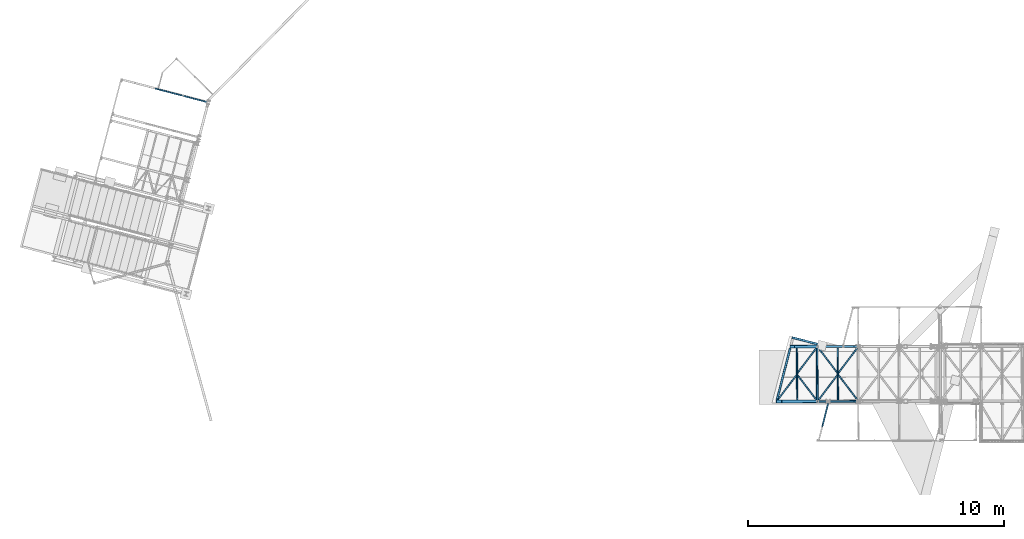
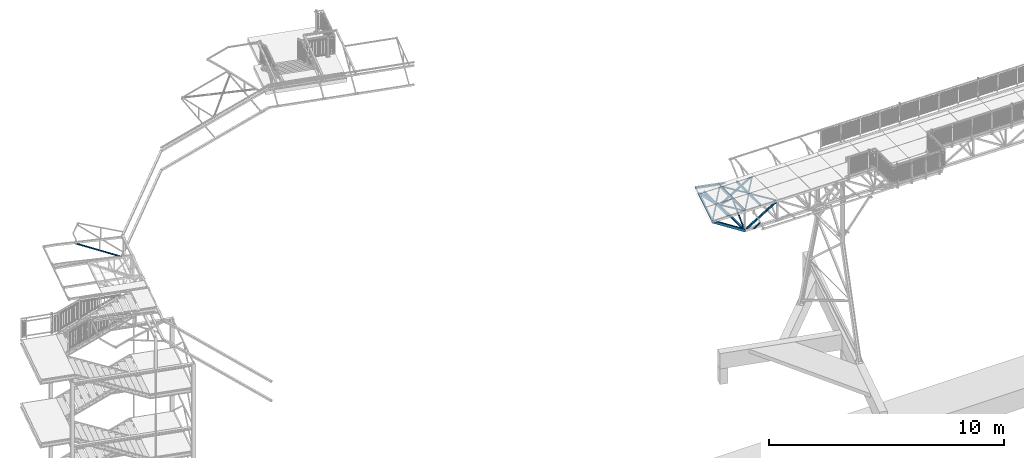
# One storey, part 49 of 169: 21 discrete accessories, 3 elements without a shape of their own.
"""IFC2X3 building model written with IfcOpenShell, lengths in millimetres."""

import ifcopenshell
import ifcopenshell.guid

model = None  # the IFC model being written
_history = None  # IfcOwnerHistory: only IFC2X3 demands one
_inside = {}  # id of a spatial element -> (the spatial element, [elements in it])
_under = {}  # id of a project, library or spatial element -> (it, [spatial elements below it])
_declared = {}  # id of a project -> (the project, [libraries it declares])
_typed = {}  # id of a type object -> (the type object, [elements of that type])
_made_of = {}  # id of a material, layer set ... -> (it, [elements and type objects made of it])


def new_model(schema):
    """Start an empty IFC model of exactly this schema.

    Asked for "IFC4X3", IfcOpenShell would pick the latest addendum, in which some entities
    have other attributes; the version numbers below select the first issue.
    IFC2X3 requires an IfcOwnerHistory on every rooted entity: one is made here for all.
    """
    global model, _history
    if schema == "IFC4X3":
        model = ifcopenshell.file(schema_version=(4, 3, 0, 0))
    else:
        model = ifcopenshell.file(schema=schema)
    _inside.clear()
    _under.clear()
    _declared.clear()
    _typed.clear()
    _made_of.clear()
    _history = None
    if model.schema == "IFC2X3":
        org = make("IfcOrganization", Name="unknown")
        user = make(
            "IfcPersonAndOrganization",
            ThePerson=make("IfcPerson", FamilyName="unknown"),
            TheOrganization=org,
        )
        app = make(
            "IfcApplication",
            ApplicationDeveloper=org,
            Version="unknown",
            ApplicationFullName="unknown",
            ApplicationIdentifier="unknown",
        )
        _history = make(
            "IfcOwnerHistory",
            OwningUser=user,
            OwningApplication=app,
            ChangeAction="ADDED",
            CreationDate=0,
        )
    return model


def make(cls, **values):
    """One entity of the class cls with the attributes given. An attribute that is None is left unset."""
    return model.create_entity(
        cls, **{name: value for name, value in values.items() if value is not None}
    )


def rooted(cls, **values):
    """An entity with a GlobalId (a new one), such as an element, a storey or a relation."""
    return make(cls, GlobalId=ifcopenshell.guid.new(), OwnerHistory=_history, **values)


def si_unit(unit_type, name, prefix=None):
    """IfcSIUnit, for example si_unit("LENGTHUNIT", "METRE", prefix="MILLI")."""
    return make("IfcSIUnit", UnitType=unit_type, Prefix=prefix, Name=name)


def assignment(units):
    """IfcUnitAssignment: the units of a project."""
    return None if units is None else make("IfcUnitAssignment", Units=units)


def point(xyz):
    """IfcCartesianPoint."""
    return None if xyz is None else make("IfcCartesianPoint", Coordinates=xyz)


def direction(xyz):
    """IfcDirection."""
    return None if xyz is None else make("IfcDirection", DirectionRatios=xyz)


def frame(location, z_axis=None, x_axis=None):
    """IfcAxis2Placement3D, a coordinate frame: its origin and axes. An axis left out is left unset."""
    return make(
        "IfcAxis2Placement3D",
        Location=point(location),
        Axis=direction(z_axis),
        RefDirection=direction(x_axis),
    )


def frame_2d(location, x_axis=None):
    """IfcAxis2Placement2D, a coordinate frame in the plane: its origin and x axis."""
    return make(
        "IfcAxis2Placement2D", Location=point(location), RefDirection=direction(x_axis)
    )


def origin_with_axes():
    """The frame at (0, 0, 0) with the z axis (0, 0, 1) and the x axis (1, 0, 0) written out."""
    return frame((0.0, 0.0, 0.0), z_axis=(0.0, 0.0, 1.0), x_axis=(1.0, 0.0, 0.0))


def origin_2d_with_axis():
    """The frame at (0, 0) in the plane with the x axis (1, 0) written out."""
    return frame_2d((0.0, 0.0), x_axis=(1.0, 0.0))


def place(relative_to, where):
    """IfcLocalPlacement: puts the frame where relative to a parent placement (None: the world)."""
    return make(
        "IfcLocalPlacement", PlacementRelTo=relative_to, RelativePlacement=where
    )


def context(
    kind, dimensions, precision=None, world=None, true_north=None, identifier=None
):
    """IfcGeometricRepresentationContext, for example the 3D "Model" context."""
    return make(
        "IfcGeometricRepresentationContext",
        ContextIdentifier=identifier,
        ContextType=kind,
        CoordinateSpaceDimension=dimensions,
        Precision=precision,
        WorldCoordinateSystem=world,
        TrueNorth=true_north,
    )


def subcontext(parent, identifier, kind, view, scale=None):
    """IfcGeometricRepresentationSubContext, for example "Body" below "Model"."""
    return make(
        "IfcGeometricRepresentationSubContext",
        ContextIdentifier=identifier,
        ContextType=kind,
        ParentContext=parent,
        TargetScale=scale,
        TargetView=view,
    )


def project(units=None, contexts=None):
    """IfcProject with its units and contexts."""
    return rooted(
        "IfcProject",
        Name="project",
        RepresentationContexts=contexts,
        UnitsInContext=assignment(units),
    )


def spatial(cls, under=None, at=None, **own):
    """A site, building, storey or space (cls), placed at a placement, below another one or the project."""
    s = rooted(cls, ObjectPlacement=at, **own)
    if under is not None:
        _under.setdefault(under.id(), (under, []))[1].append(s)
    return s


def polyline(points):
    """IfcPolyline through the points."""
    return make("IfcPolyline", Points=[point(p) for p in points])


def profile(cls, at=None, kind="AREA", **sizes):
    """A parametric profile (cls). Its sizes go by their IFC names, for example OverallWidth=200.0."""
    return make(cls, ProfileType=kind, Position=at, **sizes)


def rectangle(**sizes):
    """IfcRectangleProfileDef."""
    return profile("IfcRectangleProfileDef", **sizes)


def hollow_rectangle(**sizes):
    """IfcRectangleHollowProfileDef."""
    return profile("IfcRectangleHollowProfileDef", **sizes)


def outline(outer, holes=None, kind="AREA"):
    """IfcArbitraryClosedProfileDef: a profile drawn as a closed curve; with holes, ...WithVoids."""
    if holes is None:
        return make("IfcArbitraryClosedProfileDef", ProfileType=kind, OuterCurve=outer)
    return make(
        "IfcArbitraryProfileDefWithVoids",
        ProfileType=kind,
        OuterCurve=outer,
        InnerCurves=holes,
    )


def extrude(swept, where, along, depth):
    """IfcExtrudedAreaSolid: the profile swept, set in the frame where, extruded along a direction by depth."""
    return make(
        "IfcExtrudedAreaSolid",
        SweptArea=swept,
        Position=where,
        ExtrudedDirection=direction(along),
        Depth=depth,
    )


def boolean(op, a, b):
    """IfcBooleanResult of two solids."""
    return make("IfcBooleanResult", Operator=op, FirstOperand=a, SecondOperand=b)


def clip(a, b, op="DIFFERENCE"):
    """IfcBooleanClippingResult: the solid a cut by the half space b."""
    return make(
        "IfcBooleanClippingResult", Operator=op, FirstOperand=a, SecondOperand=b
    )


def halfspace(plane, agree):
    """IfcHalfSpaceSolid: all space on one side of the plane z = 0 of the frame plane."""
    return make(
        "IfcHalfSpaceSolid",
        BaseSurface=make("IfcPlane", Position=plane),
        AgreementFlag=agree,
    )


def shape(context_of_items, identifier, shape_type, items):
    """IfcShapeRepresentation: the items that make up one representation, for example the "Body"."""
    return make(
        "IfcShapeRepresentation",
        ContextOfItems=context_of_items,
        RepresentationIdentifier=identifier,
        RepresentationType=shape_type,
        Items=items,
    )


def material(Name=None, Category=None):
    """IfcMaterial."""
    return make("IfcMaterial", Name=Name, Category=Category)


def made_of(thing, what):
    """Note that an element or type object is made of a material, layer set ...; save() writes the relation."""
    if what is not None:
        _made_of.setdefault(what.id(), (what, []))[1].append(thing)
    return thing


def type_object(cls, material=None, **own):
    """A type object (cls), such as IfcWallType, which elements share."""
    return made_of(rooted(cls, **own), material)


def element(
    cls,
    number,
    at=None,
    inside=None,
    cuts=None,
    type_object=None,
    material=None,
    context=None,
    identifier="Body",
    shape_type=None,
    held_by="IfcProductDefinitionShape",
    body=None,
    shapes=None,
    **own,
):
    """One element of the class cls, such as IfcWall. Its Tag is "e" and its number.

    at: its placement. inside: the storey or other place that contains it. cuts: it is an
    opening in that element (IfcRelVoidsElement). A single representation is given by context,
    identifier, shape_type and body (its items); several are given by shapes. held_by: the class
    of the entity that holds the representations. save() writes the other relations.
    """
    e = rooted(cls, Tag="e%d" % number, ObjectPlacement=at, **own)
    if body is not None:
        shapes = [shape(context, identifier, shape_type, body)]
    if shapes is not None:
        e.Representation = make(held_by, Representations=shapes)
    if inside is not None:
        _inside.setdefault(inside.id(), (inside, []))[1].append(e)
    if cuts is not None:
        rooted(
            "IfcRelVoidsElement", RelatingBuildingElement=cuts, RelatedOpeningElement=e
        )
    if type_object is not None:
        _typed.setdefault(type_object.id(), (type_object, []))[1].append(e)
    return made_of(e, material)


def aggregate(whole, parts):
    """IfcRelAggregates: a whole, such as a stair, and the parts it consists of."""
    return rooted("IfcRelAggregates", RelatingObject=whole, RelatedObjects=parts)


def save(model, path):
    """Write the relations noted so far, then the file.

    IfcRelAggregates (storeys below a building ...), IfcRelContainedInSpatialStructure (elements
    in a storey), IfcRelDefinesByType, IfcRelAssociatesMaterial and IfcRelDeclares: one each for
    every whole, place, type object, material and project.
    """
    for whole, parts in _under.values():
        aggregate(whole, parts)
    for where, things in _inside.values():
        rooted(
            "IfcRelContainedInSpatialStructure",
            RelatedElements=things,
            RelatingStructure=where,
        )
    for kind, things in _typed.values():
        rooted("IfcRelDefinesByType", RelatedObjects=things, RelatingType=kind)
    for what, things in _made_of.values():
        rooted("IfcRelAssociatesMaterial", RelatedObjects=things, RelatingMaterial=what)
    for by, libraries in _declared.values():
        rooted("IfcRelDeclares", RelatingContext=by, RelatedDefinitions=libraries)
    model.write(path)


model = new_model("IFC2X3")

# Units and contexts
model_context = context("Model", 3, precision=1e-05, world=origin_with_axes())
body_context = subcontext(model_context, "Body", "Model", "MODEL_VIEW")
ifc_project = project(units=[si_unit("LENGTHUNIT", "METRE", prefix="MILLI"), si_unit("AREAUNIT", "SQUARE_METRE"), si_unit("VOLUMEUNIT", "CUBIC_METRE"), si_unit("MASSUNIT", "GRAM", prefix="KILO"), si_unit("TIMEUNIT", "SECOND"), si_unit("PLANEANGLEUNIT", "RADIAN"), si_unit("SOLIDANGLEUNIT", "STERADIAN"), si_unit("THERMODYNAMICTEMPERATUREUNIT", "DEGREE_CELSIUS"), si_unit("LUMINOUSINTENSITYUNIT", "LUMEN")], contexts=[model_context])

# Site, building, storey
site_placement = place(None, origin_with_axes())
site = spatial("IfcSite", under=ifc_project, at=site_placement, Name="Undefined", CompositionType="ELEMENT")
building_placement = place(site_placement, origin_with_axes())
building = spatial("IfcBuilding", under=site, at=building_placement, Name="Undefined", CompositionType="ELEMENT")
storey_placement = place(building_placement, origin_with_axes())
storey = spatial("IfcBuildingStorey", under=building, at=storey_placement, Name="Undefined", CompositionType="ELEMENT", Elevation=0.0)

# Assembly, discrete accessory
assembly_1_placement = place(storey_placement, origin_with_axes())
assembly_1 = element("IfcElementAssembly", 1, at=assembly_1_placement, inside=storey, Name="Steel Assembly", AssemblyPlace="NOTDEFINED", PredefinedType="RIGID_FRAME")
ifc_material_1 = material(Name="STEEL/S235")
discrete_accessory_type = type_object("IfcDiscreteAccessoryType", Name="BEAM")
discrete_accessory_1_placement = place(assembly_1_placement, frame((-24468.9295563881, 12312.4243957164, 13847.7787930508), z_axis=(0.252583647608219, 0.967575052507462, -0.000136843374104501), x_axis=(0.856735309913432, -0.223714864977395, -0.464710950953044)))
discrete_accessory_1 = element("IfcDiscreteAccessory", 2, at=discrete_accessory_1_placement, type_object=discrete_accessory_type, material=ifc_material_1, Name="BEAM", ObjectType="SHS60*4", context=body_context, shape_type="Clipping", body=[
    clip(clip(extrude(hollow_rectangle(XDim=60.0, YDim=60.0, WallThickness=4.0, InnerFilletRadius=4.0, OuterFilletRadius=8.0, at=origin_2d_with_axis()), frame((2317.76004528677, 3.66640051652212e-12, -3.71284000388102e-14), z_axis=(-1.0, -3.46944695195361e-18, -1.38777878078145e-17), x_axis=(1.73472347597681e-18, -1.0, 0.0)), (0.0, 0.0, 1.0), 2497.58), halfspace(frame((2194.40274232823, -29.9999199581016, 0.000485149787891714), z_axis=(-0.885421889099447, 0.464788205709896, 4.62227571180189e-05), x_axis=(-4.75817847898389e-05, 8.80573826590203e-06, -0.999999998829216)), True)), halfspace(frame((-170.25871689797, 45.3757276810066, 1000.0001146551), z_axis=(0.420020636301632, 0.907514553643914, 2.29337284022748e-06), x_axis=(-0.907514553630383, 0.420020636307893, -4.95571453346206e-06)), True)),
])
aggregate(assembly_1, [discrete_accessory_1])

assembly_2_placement = place(storey_placement, origin_with_axes())
assembly_2 = element("IfcElementAssembly", 3, at=assembly_2_placement, inside=storey, Name="Steel Assembly", AssemblyPlace="NOTDEFINED", PredefinedType="RIGID_FRAME")
ifc_material_2 = material(Name="STEEL/S355")
discrete_accessory_2_placement = place(assembly_2_placement, frame((1741.67537449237, 67.4410510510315, 12897.7914717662), z_axis=(-0.967485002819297, 0.2526293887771, 0.0122947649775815), x_axis=(-0.169631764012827, -0.684153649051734, 0.709336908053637)))
discrete_accessory_2 = element("IfcDiscreteAccessory", 4, at=discrete_accessory_2_placement, type_object=discrete_accessory_type, material=ifc_material_2, Name="BEAM", ObjectType="SHS60*3", context=body_context, shape_type="CSG", body=[
    boolean("DIFFERENCE", boolean("DIFFERENCE", extrude(hollow_rectangle(XDim=60.0, YDim=60.0, WallThickness=3.0, InnerFilletRadius=3.0, OuterFilletRadius=6.0, at=origin_2d_with_axis()), frame((1371.74413277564, 7.61470960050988e-14, -2.24994078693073e-13), z_axis=(-1.0, -3.46944695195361e-18, -1.38777878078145e-17), x_axis=(1.73472347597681e-18, -1.0, 0.0)), (0.0, 0.0, 1.0), 1371.74), extrude(outline(polyline([(0.0, 0.0), (209.999999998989, 6.42057784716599e-08), (209.999999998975, 133.000000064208), (-10.0000000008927, 133.000000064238), (0.0, 0.0)])), frame((26.0449207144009, -59.6348435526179, 103.806688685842), z_axis=(0.707106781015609, 0.707106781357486, 0.0), x_axis=(-0.179911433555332, 0.17991139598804, -0.967090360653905)), (0.0, 0.0, 1.0), 972.0)), halfspace(frame((1376.20959050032, -23.4865772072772, -1000.16171617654), z_axis=(-0.621991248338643, -0.782885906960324, -0.0147154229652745), x_axis=(-0.782666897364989, 0.622165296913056, -0.0185167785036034)), True)),
])
aggregate(assembly_2, [discrete_accessory_2])

# Assembly, discrete accessories
assembly_3_placement = place(storey_placement, origin_with_axes())
assembly_3 = element("IfcElementAssembly", 5, at=assembly_3_placement, inside=storey, Name="Steel Assembly", AssemblyPlace="NOTDEFINED", PredefinedType="RIGID_FRAME")
discrete_accessory_3_placement = place(assembly_3_placement, frame((516.053616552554, 1160.97844649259, 13947.6863233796), z_axis=(-0.012713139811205, -2.37511238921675e-05, -0.999919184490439), x_axis=(0.606019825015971, -0.795412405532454, -0.00768614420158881)))
discrete_accessory_3 = element("IfcDiscreteAccessory", 6, at=discrete_accessory_3_placement, type_object=discrete_accessory_type, material=ifc_material_2, Name="BEAM", ObjectType="K60/4", context=body_context, shape_type="CSG", body=[
    boolean("DIFFERENCE", boolean("DIFFERENCE", boolean("DIFFERENCE", extrude(hollow_rectangle(XDim=60.0, YDim=60.0, WallThickness=4.0, InnerFilletRadius=4.0, OuterFilletRadius=8.0, at=origin_2d_with_axis()), frame((1324.47644334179, 4.88419580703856e-14, 0.0), z_axis=(-1.0, -3.46944695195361e-18, -1.38777878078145e-17), x_axis=(1.73472347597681e-18, -1.0, 0.0)), (0.0, 0.0, 1.0), 1315.24), extrude(rectangle(XDim=62.0, YDim=122.0, at=origin_2d_with_axis()), frame((-317.194798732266, -1246.04819274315, -4.50218587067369e-07), z_axis=(0.796541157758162, 0.604584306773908, 3.61473572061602e-11), x_axis=(0.604584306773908, -0.796541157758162, 1.21739011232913e-10)), (0.0, 0.0, 1.0), 4122.0)), extrude(rectangle(XDim=122.0, YDim=122.0, at=origin_2d_with_axis()), frame((2552.51032927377, -1617.93718011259, -0.000112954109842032), z_axis=(-0.604584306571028, 0.79654115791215, 7.30440430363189e-11), x_axis=(0.0, 0.0, 1.0)), (0.0, 0.0, 1.0), 4062.41)), halfspace(frame((18.1375303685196, -23.8962347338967, -999.999999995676), z_axis=(0.604584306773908, -0.796541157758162, 1.21739011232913e-10), x_axis=(-0.796541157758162, -0.604584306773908, -3.61451384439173e-11)), True)),
])
discrete_accessory_4_placement = place(assembly_3_placement, frame((515.997671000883, 1190.97839440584, 13947.6863220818), z_axis=(-0.012713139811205, -2.37511238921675e-05, -0.999919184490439), x_axis=(0.603048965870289, 0.797667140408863, -0.00768621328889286)))
discrete_accessory_4 = element("IfcDiscreteAccessory", 7, at=discrete_accessory_4_placement, type_object=discrete_accessory_type, material=ifc_material_2, Name="BEAM", ObjectType="K60/4", context=body_context, shape_type="CSG", body=[
    boolean("DIFFERENCE", boolean("DIFFERENCE", boolean("DIFFERENCE", extrude(hollow_rectangle(XDim=60.0, YDim=60.0, WallThickness=4.0, InnerFilletRadius=4.0, OuterFilletRadius=8.0, at=origin_2d_with_axis()), frame((1324.47644334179, 4.88419580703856e-14, 0.0), z_axis=(-1.0, -3.46944695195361e-18, -1.38777878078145e-17), x_axis=(1.73472347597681e-18, -1.0, 0.0)), (0.0, 0.0, 1.0), 1315.35), extrude(rectangle(XDim=62.0, YDim=122.0, at=origin_2d_with_axis()), frame((2966.14777387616, -1246.04825596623, -1.63275600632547e-06), z_axis=(-0.79654115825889, 0.604584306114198, 2.79726373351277e-10), x_axis=(0.604584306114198, 0.79654115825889, -3.06618013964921e-10)), (0.0, 0.0, 1.0), 4122.0)), extrude(rectangle(XDim=122.0, YDim=122.0, at=origin_2d_with_axis()), frame((2552.51014726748, 1617.9371159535, -0.00011415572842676), z_axis=(-0.604584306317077, -0.796541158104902, 5.01400825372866e-10), x_axis=(0.0, 0.0, 1.0)), (0.0, 0.0, 1.0), 4062.41)), halfspace(frame((18.1375297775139, 23.8962347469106, -1000.00000000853), z_axis=(0.604584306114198, 0.79654115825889, -3.06618013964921e-10), x_axis=(0.79654115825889, -0.604584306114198, -2.79724190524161e-10)), True)),
])
discrete_accessory_5_placement = place(assembly_3_placement, frame((-282.670533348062, 104.487109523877, 13957.8665308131), z_axis=(-0.012713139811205, -2.37511238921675e-05, -0.999919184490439), x_axis=(0.603048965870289, 0.797667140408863, -0.00768621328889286)))
discrete_accessory_5 = element("IfcDiscreteAccessory", 8, at=discrete_accessory_5_placement, type_object=discrete_accessory_type, material=ifc_material_2, Name="BEAM", ObjectType="K60/4", context=body_context, shape_type="CSG", body=[
    boolean("DIFFERENCE", boolean("DIFFERENCE", boolean("DIFFERENCE", extrude(hollow_rectangle(XDim=60.0, YDim=60.0, WallThickness=4.0, InnerFilletRadius=4.0, OuterFilletRadius=8.0, at=origin_2d_with_axis()), frame((1315.35435976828, -9.7635059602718e-14, -1.8178485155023e-12), z_axis=(-1.0, -3.46944695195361e-18, -1.38777878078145e-17), x_axis=(1.73472347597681e-18, -1.0, 0.0)), (0.0, 0.0, 1.0), 1315.35), extrude(rectangle(XDim=82.0, YDim=82.0, at=origin_2d_with_axis()), frame((1900.73366205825, -797.412851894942, -20.0001129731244), z_axis=(-0.922131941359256, 0.386875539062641, 3.72807172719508e-10), x_axis=(0.0, 0.0, 1.0)), (0.0, 0.0, 1.0), 4122.32)), extrude(rectangle(XDim=122.0, YDim=122.0, at=origin_2d_with_axis()), frame((1223.61572124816, 1612.11658727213, -0.000113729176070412), z_axis=(-0.604584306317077, -0.796541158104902, 5.01400825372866e-10), x_axis=(0.0, 0.0, 1.0)), (0.0, 0.0, 1.0), 4047.79)), halfspace(frame((1306.33891469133, -23.8962347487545, -999.999999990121), z_axis=(-0.604584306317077, -0.796541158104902, 5.01400825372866e-10), x_axis=(-0.79654115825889, 0.604584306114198, 2.79726373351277e-10)), True)),
])
discrete_accessory_6_placement = place(assembly_3_placement, frame((518.021032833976, 105.980281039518, 13947.6863689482), z_axis=(0.012713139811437, 2.3750999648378e-05, 0.999919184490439), x_axis=(-0.0018648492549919, 0.999998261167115, -4.2996762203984e-08)))
discrete_accessory_6 = element("IfcDiscreteAccessory", 9, at=discrete_accessory_6_placement, type_object=discrete_accessory_type, material=ifc_material_2, Name="BEAM", ObjectType="RHS120*60*3", context=body_context, shape_type="Clipping", body=[
    clip(clip(extrude(hollow_rectangle(XDim=60.0, YDim=120.0, WallThickness=3.0, InnerFilletRadius=3.0, OuterFilletRadius=6.0, at=origin_2d_with_axis()), frame((2079.99999999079, 5.70364343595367e-14, -1.83064995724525e-18), z_axis=(-1.0, -3.46944695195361e-18, -1.38777878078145e-17), x_axis=(1.73472347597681e-18, -1.0, 0.0)), (0.0, 0.0, 1.0), 2020.0), halfspace(frame((2079.99999986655, -1.53990526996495e-08, 999.999999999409), z_axis=(-1.0, -3.46944695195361e-18, -1.38777878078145e-17), x_axis=(1.73472347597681e-18, -1.0, 0.0)), True)), halfspace(frame((59.9998947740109, 1.52502366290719e-08, 999.99999999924), z_axis=(1.0, 0.0, 0.0), x_axis=(0.0, 1.0, 0.0)), True)),
])
discrete_accessory_7_placement = place(assembly_3_placement, frame((2117.4367494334, 1163.96478953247, 13927.3259996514), z_axis=(-0.012713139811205, -2.37511238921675e-05, -0.999919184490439), x_axis=(0.606019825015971, -0.795412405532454, -0.00768614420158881)))
discrete_accessory_7 = element("IfcDiscreteAccessory", 10, at=discrete_accessory_7_placement, type_object=discrete_accessory_type, material=ifc_material_2, Name="BEAM", ObjectType="K60/4", context=body_context, shape_type="CSG", body=[
    boolean("DIFFERENCE", boolean("DIFFERENCE", boolean("DIFFERENCE", extrude(hollow_rectangle(XDim=60.0, YDim=60.0, WallThickness=4.0, InnerFilletRadius=4.0, OuterFilletRadius=8.0, at=origin_2d_with_axis()), frame((1324.47644334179, 4.88419580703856e-14, 0.0), z_axis=(-1.0, -3.46944695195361e-18, -1.38777878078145e-17), x_axis=(1.73472347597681e-18, -1.0, 0.0)), (0.0, 0.0, 1.0), 1315.24), extrude(rectangle(XDim=62.0, YDim=122.0, at=origin_2d_with_axis()), frame((-317.194798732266, -1246.04819274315, -4.50218587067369e-07), z_axis=(0.796541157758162, 0.604584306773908, 3.61473572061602e-11), x_axis=(0.604584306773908, -0.796541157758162, 1.21739011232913e-10)), (0.0, 0.0, 1.0), 4122.0)), extrude(rectangle(XDim=122.0, YDim=122.0, at=origin_2d_with_axis()), frame((2552.51032927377, -1617.93718011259, -0.000112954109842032), z_axis=(-0.604584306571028, 0.79654115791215, 7.30440430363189e-11), x_axis=(0.0, 0.0, 1.0)), (0.0, 0.0, 1.0), 4062.41)), halfspace(frame((18.1375303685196, -23.8962347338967, -999.999999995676), z_axis=(0.604584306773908, -0.796541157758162, 1.21739011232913e-10), x_axis=(-0.796541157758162, -0.604584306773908, -3.61451384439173e-11)), True)),
])
discrete_accessory_8_placement = place(assembly_3_placement, frame((2117.38080388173, 1193.96473744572, 13927.3259983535), z_axis=(-0.012713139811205, -2.37511238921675e-05, -0.999919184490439), x_axis=(0.603048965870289, 0.797667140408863, -0.00768621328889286)))
discrete_accessory_8 = element("IfcDiscreteAccessory", 11, at=discrete_accessory_8_placement, type_object=discrete_accessory_type, material=ifc_material_2, Name="BEAM", ObjectType="K60/4", context=body_context, shape_type="CSG", body=[
    boolean("DIFFERENCE", boolean("DIFFERENCE", boolean("DIFFERENCE", extrude(hollow_rectangle(XDim=60.0, YDim=60.0, WallThickness=4.0, InnerFilletRadius=4.0, OuterFilletRadius=8.0, at=origin_2d_with_axis()), frame((1324.47644334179, 4.88419580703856e-14, 0.0), z_axis=(-1.0, -3.46944695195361e-18, -1.38777878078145e-17), x_axis=(1.73472347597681e-18, -1.0, 0.0)), (0.0, 0.0, 1.0), 1315.35), extrude(rectangle(XDim=62.0, YDim=122.0, at=origin_2d_with_axis()), frame((2966.14777387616, -1246.04825596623, -1.63275600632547e-06), z_axis=(-0.79654115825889, 0.604584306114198, 2.79726373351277e-10), x_axis=(0.604584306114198, 0.79654115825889, -3.06618013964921e-10)), (0.0, 0.0, 1.0), 4122.0)), extrude(rectangle(XDim=122.0, YDim=122.0, at=origin_2d_with_axis()), frame((2552.51014726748, 1617.9371159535, -0.00011415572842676), z_axis=(-0.604584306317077, -0.796541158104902, 5.01400825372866e-10), x_axis=(0.0, 0.0, 1.0)), (0.0, 0.0, 1.0), 4062.41)), halfspace(frame((18.1375297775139, 23.8962347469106, -1000.00000000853), z_axis=(0.604584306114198, 0.79654115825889, -3.06618013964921e-10), x_axis=(0.79654115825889, -0.604584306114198, -2.79724190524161e-10)), True)),
])
discrete_accessory_9_placement = place(assembly_3_placement, frame((1318.71259953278, 107.473452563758, 13937.5062070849), z_axis=(-0.012713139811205, -2.37511238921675e-05, -0.999919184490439), x_axis=(0.603048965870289, 0.797667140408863, -0.00768621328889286)))
discrete_accessory_9 = element("IfcDiscreteAccessory", 12, at=discrete_accessory_9_placement, type_object=discrete_accessory_type, material=ifc_material_2, Name="BEAM", ObjectType="K60/4", context=body_context, shape_type="CSG", body=[
    boolean("DIFFERENCE", boolean("DIFFERENCE", boolean("DIFFERENCE", extrude(hollow_rectangle(XDim=60.0, YDim=60.0, WallThickness=4.0, InnerFilletRadius=4.0, OuterFilletRadius=8.0, at=origin_2d_with_axis()), frame((1315.35435976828, -9.7635059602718e-14, -1.8178485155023e-12), z_axis=(-1.0, -3.46944695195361e-18, -1.38777878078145e-17), x_axis=(1.73472347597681e-18, -1.0, 0.0)), (0.0, 0.0, 1.0), 1315.35), extrude(rectangle(XDim=62.0, YDim=122.0, at=origin_2d_with_axis()), frame((1641.67124226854, -1246.0481903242, -5.87301509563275e-07), z_axis=(-0.79654115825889, 0.604584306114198, 2.79726373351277e-10), x_axis=(0.604584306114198, 0.79654115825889, -3.06618013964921e-10)), (0.0, 0.0, 1.0), 4122.0)), extrude(rectangle(XDim=122.0, YDim=122.0, at=origin_2d_with_axis()), frame((1227.7876623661, 1617.61313177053, -0.000112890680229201), z_axis=(-0.604584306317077, -0.796541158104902, 5.01400825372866e-10), x_axis=(0.0, 0.0, 1.0)), (0.0, 0.0, 1.0), 4061.59)), halfspace(frame((1306.33891469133, -23.8962347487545, -999.999999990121), z_axis=(-0.604584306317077, -0.796541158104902, 5.01400825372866e-10), x_axis=(-0.79654115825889, 0.604584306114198, 2.79726373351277e-10)), True)),
])
discrete_accessory_10_placement = place(assembly_3_placement, frame((1314.72182162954, 2247.46973145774, 13937.5061146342), z_axis=(-0.012713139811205, -2.37511238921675e-05, -0.999919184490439), x_axis=(0.606019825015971, -0.795412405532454, -0.00768614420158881)))
discrete_accessory_10 = element("IfcDiscreteAccessory", 13, at=discrete_accessory_10_placement, type_object=discrete_accessory_type, material=ifc_material_2, Name="BEAM", ObjectType="K60/4", context=body_context, shape_type="CSG", body=[
    boolean("DIFFERENCE", boolean("DIFFERENCE", boolean("DIFFERENCE", extrude(hollow_rectangle(XDim=60.0, YDim=60.0, WallThickness=4.0, InnerFilletRadius=4.0, OuterFilletRadius=8.0, at=origin_2d_with_axis()), frame((1315.24277788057, 5.30824433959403e-14, -1.81670782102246e-12), z_axis=(-1.0, -3.46944695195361e-18, -1.38777878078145e-17), x_axis=(1.73472347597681e-18, -1.0, 0.0)), (0.0, 0.0, 1.0), 1315.24), extrude(rectangle(XDim=62.0, YDim=122.0, at=origin_2d_with_axis()), frame((-1641.67132428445, -1246.04825629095, -5.23172089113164e-07), z_axis=(0.796541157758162, 0.604584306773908, 3.61473572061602e-11), x_axis=(0.604584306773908, -0.796541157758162, 1.21739011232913e-10)), (0.0, 0.0, 1.0), 4122.0)), extrude(rectangle(XDim=122.0, YDim=122.0, at=origin_2d_with_axis()), frame((1227.78774972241, -1617.61306674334, -0.000112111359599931), z_axis=(-0.604584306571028, 0.79654115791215, 7.30440430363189e-11), x_axis=(0.0, 0.0, 1.0)), (0.0, 0.0, 1.0), 4061.59)), halfspace(frame((1306.33891564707, 23.8962347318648, -1000.00000000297), z_axis=(-0.604584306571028, 0.79654115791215, 7.30440430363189e-11), x_axis=(0.796541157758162, 0.604584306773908, 3.61473572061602e-11)), True)),
])
discrete_accessory_11_placement = place(assembly_3_placement, frame((2119.40416571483, 108.966624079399, 13927.3260452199), z_axis=(0.012713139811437, 2.3750999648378e-05, 0.999919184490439), x_axis=(-0.0018648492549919, 0.999998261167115, -4.2996762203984e-08)))
discrete_accessory_11 = element("IfcDiscreteAccessory", 14, at=discrete_accessory_11_placement, type_object=discrete_accessory_type, material=ifc_material_2, Name="BEAM", ObjectType="RHS120*60*3", context=body_context, shape_type="Clipping", body=[
    clip(clip(extrude(hollow_rectangle(XDim=60.0, YDim=120.0, WallThickness=3.0, InnerFilletRadius=3.0, OuterFilletRadius=6.0, at=origin_2d_with_axis()), frame((2079.99999999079, 5.70364343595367e-14, -1.83064995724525e-18), z_axis=(-1.0, -3.46944695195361e-18, -1.38777878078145e-17), x_axis=(1.73472347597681e-18, -1.0, 0.0)), (0.0, 0.0, 1.0), 2020.0), halfspace(frame((2079.99999986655, -1.53990526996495e-08, 999.999999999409), z_axis=(-1.0, -3.46944695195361e-18, -1.38777878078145e-17), x_axis=(1.73472347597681e-18, -1.0, 0.0)), True)), halfspace(frame((59.9998947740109, 1.52502366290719e-08, 999.99999999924), z_axis=(1.0, 0.0, 0.0), x_axis=(0.0, 1.0, 0.0)), True)),
])
discrete_accessory_12_placement = place(assembly_3_placement, frame((2916.10495377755, 2250.45607452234, 13917.145791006), z_axis=(0.518820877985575, 0.000967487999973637, -0.854882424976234), x_axis=(-0.854880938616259, -0.00159424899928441, -0.51882177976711)))
discrete_accessory_12 = element("IfcDiscreteAccessory", 15, at=discrete_accessory_12_placement, type_object=discrete_accessory_type, material=ifc_material_2, Name="BEAM", ObjectType="K80/4", context=body_context, shape_type="CSG", body=[
    boolean("DIFFERENCE", boolean("DIFFERENCE", boolean("DIFFERENCE", boolean("DIFFERENCE", extrude(hollow_rectangle(XDim=80.0, YDim=80.0, WallThickness=4.0, InnerFilletRadius=4.0, OuterFilletRadius=8.0, at=origin_2d_with_axis()), frame((1888.04600971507, 2.64948621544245e-16, 1.71418179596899e-12), z_axis=(-1.0, -3.46944695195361e-18, -1.38777878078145e-17), x_axis=(1.73472347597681e-18, -1.0, 0.0)), (0.0, 0.0, 1.0), 1888.05), extrude(rectangle(XDim=122.0, YDim=122.0, at=origin_2d_with_axis()), frame((156.869486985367, -1.21910317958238e-06, 1080.98959388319), z_axis=(0.848217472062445, 4.64185049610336e-11, -0.529648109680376), x_axis=(0.529648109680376, -3.80183087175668e-10, 0.848217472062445)), (0.0, 0.0, 1.0), 4081.92)), extrude(rectangle(XDim=82.0, YDim=82.0, at=origin_2d_with_axis()), frame((-1091.60469527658, 1.91724880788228e-07, -1748.17611468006), z_axis=(0.529648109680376, -3.80183087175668e-10, 0.848217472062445), x_axis=(1.73472347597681e-18, -1.0, 0.0)), (0.0, 0.0, 1.0), 4122.0)), extrude(rectangle(XDim=122.0, YDim=122.0, at=origin_2d_with_axis()), frame((-1731.3847607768, -1.12584472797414e-06, 1081.1196229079), z_axis=(0.848217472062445, 4.64185049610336e-11, -0.529648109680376), x_axis=(0.529648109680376, -3.80183087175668e-10, 0.848217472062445)), (0.0, 0.0, 1.0), 4082.41)), extrude(rectangle(XDim=82.0, YDim=82.0, at=origin_2d_with_axis()), frame((788.002908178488, -5.62018051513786e-07, -1761.7687904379), z_axis=(0.529648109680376, -3.80183087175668e-10, 0.848217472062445), x_axis=(1.73472347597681e-18, -1.0, 0.0)), (0.0, 0.0, 1.0), 4154.05)),
])
discrete_accessory_13_placement = place(assembly_3_placement, frame((-282.387902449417, 104.487532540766, 13977.8646660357), z_axis=(0.968799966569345, -0.247537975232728, -0.0123116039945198), x_axis=(0.247517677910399, 0.968878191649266, -0.00316999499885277)))
discrete_accessory_13 = element("IfcDiscreteAccessory", 16, at=discrete_accessory_13_placement, type_object=discrete_accessory_type, material=ifc_material_2, Name="BEAM", ObjectType="K80/4", context=body_context, shape_type="CSG", body=[
    boolean("DIFFERENCE", boolean("DIFFERENCE", extrude(hollow_rectangle(XDim=80.0, YDim=80.0, WallThickness=4.0, InnerFilletRadius=4.0, OuterFilletRadius=8.0, at=origin_2d_with_axis()), frame((2243.25949567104, 1.81801654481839e-12, 8.50491340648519e-14), z_axis=(-1.0, -3.46944695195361e-18, -1.38777878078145e-17), x_axis=(1.73472347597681e-18, -1.0, 0.0)), (0.0, 0.0, 1.0), 2191.96), extrude(rectangle(XDim=122.0, YDim=122.0, at=origin_2d_with_axis()), frame((2720.22433527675, -20.0000019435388, 1982.42316218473), z_axis=(-0.249344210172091, 1.0527162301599e-09, -0.968414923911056), x_axis=(1.73472347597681e-18, -1.0, 0.0)), (0.0, 0.0, 1.0), 4094.16)), halfspace(frame((-191.23931477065, 1.71185092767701e-08, -983.375576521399), z_axis=(0.968414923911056, 4.17288125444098e-10, -0.249344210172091), x_axis=(1.73472347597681e-18, -1.0, 0.0)), True)),
])
discrete_accessory_14_placement = place(assembly_3_placement, frame((314.9302541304, 2604.20920419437, 13970.2108866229), z_axis=(-0.247517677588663, -0.968878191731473, 0.00316999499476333), x_axis=(0.968799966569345, -0.247537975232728, -0.0123116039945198)))
discrete_accessory_14 = element("IfcDiscreteAccessory", 17, at=discrete_accessory_14_placement, type_object=discrete_accessory_type, material=ifc_material_2, Name="BEAM", ObjectType="K80/4", context=body_context, shape_type="Clipping", body=[
    clip(extrude(hollow_rectangle(XDim=80.0, YDim=80.0, WallThickness=4.0, InnerFilletRadius=4.0, OuterFilletRadius=8.0, at=origin_2d_with_axis()), frame((1375.98059098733, -1.81660245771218e-12, 1.94032589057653e-14), z_axis=(-1.0, -3.46944695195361e-18, -1.38777878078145e-17), x_axis=(1.73472347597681e-18, -1.0, 0.0)), (0.0, 0.0, 1.0), 1375.98), halfspace(frame((454.810263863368, 1.72203726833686e-08, 191.239314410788), z_axis=(-0.249344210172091, 1.0527162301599e-09, -0.968414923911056), x_axis=(1.73472347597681e-18, -1.0, 0.0)), True)),
])
discrete_accessory_15_placement = place(assembly_3_placement, frame((1316.71720981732, 1177.4715920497, 13937.5061608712), z_axis=(-0.00801490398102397, -0.682820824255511, -0.730541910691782), x_axis=(-0.0100430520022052, 0.730583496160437, -0.682749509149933)))
discrete_accessory_15 = element("IfcDiscreteAccessory", 18, at=discrete_accessory_15_placement, type_object=discrete_accessory_type, material=ifc_material_2, Name="BEAM", ObjectType="K60/4", context=body_context, shape_type="CSG", body=[
    boolean("DIFFERENCE", boolean("DIFFERENCE", boolean("DIFFERENCE", boolean("DIFFERENCE", extrude(hollow_rectangle(XDim=60.0, YDim=60.0, WallThickness=4.0, InnerFilletRadius=4.0, OuterFilletRadius=8.0, at=origin_2d_with_axis()), frame((1464.54771171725, -2.54058529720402e-15, 1.73769067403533e-12), z_axis=(-1.0, -3.46944695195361e-18, -1.38777878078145e-17), x_axis=(1.73472347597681e-18, -1.0, 0.0)), (0.0, 0.0, 1.0), 1409.7), extrude(rectangle(XDim=122.0, YDim=122.0, at=origin_2d_with_axis()), frame((1464.54763377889, 2029.99999998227, -7.71977473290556e-05), z_axis=(1.73472347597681e-18, -1.0, 0.0), x_axis=(0.682804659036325, -5.74226128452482e-10, 0.730600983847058)), (0.0, 0.0, 1.0), 4060.0)), extrude(rectangle(XDim=82.0, YDim=82.0, at=origin_2d_with_axis()), frame((2955.70431769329, 3.22820304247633e-06, -1393.60430822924), z_axis=(-0.730600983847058, -6.40306815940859e-10, 0.682804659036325), x_axis=(0.0, 1.0, 0.0)), (0.0, 0.0, 1.0), 4082.0)), extrude(rectangle(XDim=82.0, YDim=82.0, at=origin_2d_with_axis()), frame((70.9434023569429, 1.26172341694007e-06, -1491.15660917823), z_axis=(0.682804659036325, -5.74226128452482e-10, 0.730600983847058), x_axis=(-0.730600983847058, -6.40306815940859e-10, 0.682804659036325)), (0.0, 0.0, 1.0), 4082.0)), halfspace(frame((-689.632704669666, -3.43825377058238e-08, 726.640717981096), z_axis=(0.682804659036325, -5.74226128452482e-10, 0.730600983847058), x_axis=(0.0, 1.0, 0.0)), True)),
])
discrete_accessory_16_placement = place(assembly_3_placement, frame((1305.99945925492, 107.44970122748, 12937.5870226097), z_axis=(-0.0105615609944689, 0.682786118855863, -0.730541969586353), x_axis=(0.00731813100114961, 0.730615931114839, 0.682749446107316)))
discrete_accessory_16 = element("IfcDiscreteAccessory", 19, at=discrete_accessory_16_placement, type_object=discrete_accessory_type, material=ifc_material_2, Name="BEAM", ObjectType="K60/4", context=body_context, shape_type="CSG", body=[
    boolean("DIFFERENCE", boolean("DIFFERENCE", boolean("DIFFERENCE", extrude(hollow_rectangle(XDim=60.0, YDim=60.0, WallThickness=4.0, InnerFilletRadius=4.0, OuterFilletRadius=8.0, at=origin_2d_with_axis()), frame((1409.62306429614, 2.44530622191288e-15, -3.48147920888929e-12), z_axis=(-1.0, -3.46944695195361e-18, -1.38777878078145e-17), x_axis=(1.73472347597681e-18, -1.0, 0.0)), (0.0, 0.0, 1.0), 1409.62), extrude(rectangle(XDim=82.0, YDim=82.0, at=origin_2d_with_axis()), frame((1491.15653144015, 6.98136768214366e-07, 1393.60423636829), z_axis=(-0.730600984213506, -8.41296776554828e-11, -0.682804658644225), x_axis=(0.0, 1.0, 0.0)), (0.0, 0.0, 1.0), 4082.0)), extrude(rectangle(XDim=82.0, YDim=82.0, at=origin_2d_with_axis()), frame((1393.60423162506, -1.60659598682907e-06, -1491.15668038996), z_axis=(-0.682804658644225, 7.91412114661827e-10, 0.730600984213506), x_axis=(-0.730600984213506, -8.41296776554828e-11, -0.682804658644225)), (0.0, 0.0, 1.0), 4082.0)), halfspace(frame((2154.18041553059, 4.7799403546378e-08, 726.64071778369), z_axis=(-0.682804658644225, 7.91412114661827e-10, 0.730600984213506), x_axis=(1.73472347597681e-18, -1.0, 0.0)), True)),
])
discrete_accessory_17_placement = place(assembly_3_placement, frame((1302.05040897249, 2247.4460579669, 12937.5863996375), z_axis=(-0.0018648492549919, 0.999998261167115, -4.2996762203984e-08), x_axis=(-0.71334087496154, -0.00133024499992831, 0.700815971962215)))
discrete_accessory_17 = element("IfcDiscreteAccessory", 20, at=discrete_accessory_17_placement, type_object=discrete_accessory_type, material=ifc_material_2, Name="BEAM", ObjectType="RHS120*4", context=body_context, shape_type="Clipping", body=[
    clip(clip(extrude(hollow_rectangle(XDim=120.0, YDim=120.0, WallThickness=4.0, InnerFilletRadius=4.0, OuterFilletRadius=8.0, at=origin_2d_with_axis()), frame((1482.74374729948, -1.65437177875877e-12, 5.48312789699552e-16), z_axis=(-1.0, -3.46944695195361e-18, -1.38777878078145e-17), x_axis=(1.73472347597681e-18, -1.0, 0.0)), (0.0, 0.0, 1.0), 1606.5), halfspace(frame((1404.23204575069, -43.3316431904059, 1000.00000000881), z_axis=(-0.691690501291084, -0.722194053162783, 1.35302514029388e-10), x_axis=(0.722194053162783, -0.691690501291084, -3.95970346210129e-10)), True)), halfspace(frame((-24.0978361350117, -60.0000000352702, -3.43275132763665e-08), z_axis=(-0.927953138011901, 0.372696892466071, -2.02945507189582e-10), x_axis=(-2.54700353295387e-10, 0.0, -1.0)), False)),
])
discrete_accessory_18_placement = place(assembly_3_placement, frame((1305.94119537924, 107.449487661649, 12937.5877634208), z_axis=(-0.0018648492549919, 0.999998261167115, -4.2996762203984e-08), x_axis=(-0.841411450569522, -0.00156908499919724, 0.540392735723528)))
discrete_accessory_18 = element("IfcDiscreteAccessory", 21, at=discrete_accessory_18_placement, type_object=discrete_accessory_type, material=ifc_material_2, Name="BEAM", ObjectType="RHS120*4", context=body_context, shape_type="Clipping", body=[
    clip(clip(extrude(hollow_rectangle(XDim=120.0, YDim=120.0, WallThickness=4.0, InnerFilletRadius=4.0, OuterFilletRadius=8.0, at=origin_2d_with_axis()), frame((1920.06417371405, -1.81898940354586e-12, -4.39453263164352e-16), z_axis=(-1.0, -3.46944695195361e-18, -1.38777878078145e-17), x_axis=(1.73472347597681e-18, -1.0, 0.0)), (0.0, 0.0, 1.0), 2065.38), halfspace(frame((1856.25307097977, -50.8929008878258, 999.999999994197), z_axis=(-0.529652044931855, -0.848215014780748, -1.08717169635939e-10), x_axis=(0.848215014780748, -0.529652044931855, -8.0593053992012e-11)), True)), halfspace(frame((-17.1942821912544, -60.0000000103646, -9.13951225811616e-09), z_axis=(-0.961305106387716, 0.275485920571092, -1.9732032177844e-10), x_axis=(-2.54700353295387e-10, 0.0, -1.0)), False)),
])
discrete_accessory_19_placement = place(assembly_3_placement, frame((2920.09573187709, 110.459690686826, 13917.1458834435), z_axis=(0.518820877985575, 0.000967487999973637, -0.854882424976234), x_axis=(-0.854880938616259, -0.00159424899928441, -0.51882177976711)))
discrete_accessory_19 = element("IfcDiscreteAccessory", 22, at=discrete_accessory_19_placement, type_object=discrete_accessory_type, material=ifc_material_2, Name="BEAM", ObjectType="K80/4", context=body_context, shape_type="CSG", body=[
    boolean("DIFFERENCE", boolean("DIFFERENCE", boolean("DIFFERENCE", boolean("DIFFERENCE", extrude(hollow_rectangle(XDim=80.0, YDim=80.0, WallThickness=4.0, InnerFilletRadius=4.0, OuterFilletRadius=8.0, at=origin_2d_with_axis()), frame((1888.04600971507, 2.64948621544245e-16, 1.71418179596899e-12), z_axis=(-1.0, -3.46944695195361e-18, -1.38777878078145e-17), x_axis=(1.73472347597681e-18, -1.0, 0.0)), (0.0, 0.0, 1.0), 1888.05), extrude(rectangle(XDim=122.0, YDim=122.0, at=origin_2d_with_axis()), frame((156.869486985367, -1.21910317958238e-06, 1080.98959388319), z_axis=(0.848217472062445, 4.64185049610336e-11, -0.529648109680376), x_axis=(0.529648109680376, -3.80183087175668e-10, 0.848217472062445)), (0.0, 0.0, 1.0), 4081.92)), extrude(rectangle(XDim=82.0, YDim=82.0, at=origin_2d_with_axis()), frame((-1091.60469527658, 1.91724880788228e-07, -1748.17611468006), z_axis=(0.529648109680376, -3.80183087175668e-10, 0.848217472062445), x_axis=(1.73472347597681e-18, -1.0, 0.0)), (0.0, 0.0, 1.0), 4122.0)), extrude(rectangle(XDim=122.0, YDim=122.0, at=origin_2d_with_axis()), frame((-1731.3847607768, -1.12584472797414e-06, 1081.1196229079), z_axis=(0.848217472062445, 4.64185049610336e-11, -0.529648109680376), x_axis=(0.529648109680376, -3.80183087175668e-10, 0.848217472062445)), (0.0, 0.0, 1.0), 4082.41)), extrude(rectangle(XDim=82.0, YDim=82.0, at=origin_2d_with_axis()), frame((788.002908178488, -5.62018051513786e-07, -1761.7687904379), z_axis=(0.529648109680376, -3.80183087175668e-10, 0.848217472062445), x_axis=(1.73472347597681e-18, -1.0, 0.0)), (0.0, 0.0, 1.0), 4154.05)),
])
discrete_accessory_20_placement = place(assembly_3_placement, frame((1305.99945925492, 107.44970122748, 12937.5870226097), z_axis=(0.012713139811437, 2.3750999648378e-05, 0.999919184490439), x_axis=(-0.0018648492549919, 0.999998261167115, -4.2996762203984e-08)))
discrete_accessory_20 = element("IfcDiscreteAccessory", 23, at=discrete_accessory_20_placement, type_object=discrete_accessory_type, material=ifc_material_2, Name="BEAM", ObjectType="K80/4", context=body_context, shape_type="Clipping", body=[
    clip(clip(extrude(hollow_rectangle(XDim=80.0, YDim=80.0, WallThickness=4.0, InnerFilletRadius=4.0, OuterFilletRadius=8.0, at=origin_2d_with_axis()), frame((2079.99999999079, 5.70364343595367e-14, -1.83064995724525e-18), z_axis=(-1.0, -3.46944695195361e-18, -1.38777878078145e-17), x_axis=(1.73472347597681e-18, -1.0, 0.0)), (0.0, 0.0, 1.0), 2020.0), halfspace(frame((2079.99999986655, -1.53990526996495e-08, 999.999999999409), z_axis=(-1.0, -3.46944695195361e-18, -1.38777878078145e-17), x_axis=(1.73472347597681e-18, -1.0, 0.0)), True)), halfspace(frame((59.9998947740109, 1.52502366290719e-08, 999.99999999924), z_axis=(1.0, 0.0, 0.0), x_axis=(0.0, 1.0, 0.0)), True)),
])
discrete_accessory_21_placement = place(assembly_3_placement, frame((1318.71259953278, 107.473452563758, 13937.5062070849), z_axis=(0.012713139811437, 2.3750999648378e-05, 0.999919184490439), x_axis=(-0.0018648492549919, 0.999998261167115, -4.2996762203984e-08)))
discrete_accessory_21 = element("IfcDiscreteAccessory", 24, at=discrete_accessory_21_placement, type_object=discrete_accessory_type, material=ifc_material_2, Name="BEAM", ObjectType="RHS120*60*3", context=body_context, shape_type="Clipping", body=[
    clip(clip(extrude(hollow_rectangle(XDim=60.0, YDim=120.0, WallThickness=3.0, InnerFilletRadius=3.0, OuterFilletRadius=6.0, at=origin_2d_with_axis()), frame((2079.99999999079, 5.70364343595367e-14, -1.83064995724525e-18), z_axis=(-1.0, -3.46944695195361e-18, -1.38777878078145e-17), x_axis=(1.73472347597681e-18, -1.0, 0.0)), (0.0, 0.0, 1.0), 2020.0), halfspace(frame((2079.99999986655, -1.53990526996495e-08, 999.999999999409), z_axis=(-1.0, -3.46944695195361e-18, -1.38777878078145e-17), x_axis=(1.73472347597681e-18, -1.0, 0.0)), True)), halfspace(frame((59.9998947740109, 1.52502366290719e-08, 999.99999999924), z_axis=(1.0, 0.0, 0.0), x_axis=(0.0, 1.0, 0.0)), True)),
])
aggregate(assembly_3, [discrete_accessory_3, discrete_accessory_4, discrete_accessory_5, discrete_accessory_6, discrete_accessory_7, discrete_accessory_8, discrete_accessory_9, discrete_accessory_10, discrete_accessory_11, discrete_accessory_12, discrete_accessory_13, discrete_accessory_14, discrete_accessory_15, discrete_accessory_16, discrete_accessory_17, discrete_accessory_18, discrete_accessory_19, discrete_accessory_20, discrete_accessory_21])

save(model, "model.ifc")
